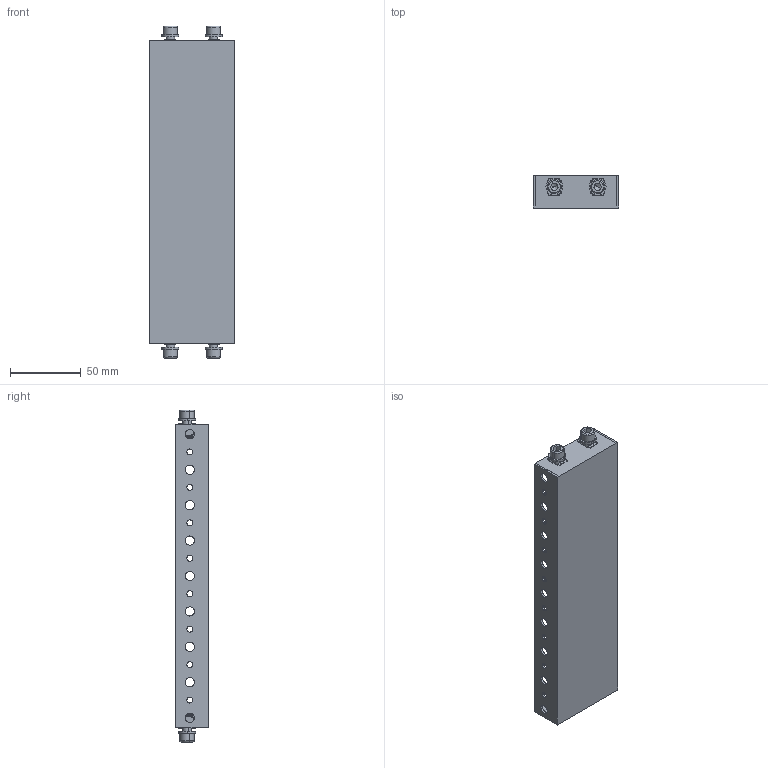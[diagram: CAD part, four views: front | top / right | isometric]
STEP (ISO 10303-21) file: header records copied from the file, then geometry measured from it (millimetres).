
FILE_DESCRIPTION(('Open CASCADE Model'),'2;1');
FILE_NAME('Open CASCADE Shape Model','2025-02-28T14:45:29',('Author'),( 'Open CASCADE'),'Open CASCADE STEP processor 7.8','Open CASCADE 7.8' ,'Unknown');
FILE_SCHEMA(('AUTOMOTIVE_DESIGN { 1 0 10303 214 1 1 1 1 }'));
Length unit declared in the file: millimetre
Products named in the file (5): Compound1; Solid1; Solid2; Solid3; Solid4
Assembly tree (13 placements, depth 2):
  Compound1
    Solid1
    Solid2  x4
    Solid3  x4
    Solid4  x4
Bounding box: 60.5 x 23 x 234.2 mm (x, y, z)
Volume: 41154 mm3; surface area: 56628.1 mm2
Topology: 13 solids, 13 shells, 682 faces, 1892 edges, 1228 vertices
Faces by surface type: plane 326, cylinder 308, cone 32, torus 16
Entity records: 8464 total; most frequent: CARTESIAN_POINT 1656, DIRECTION 1422, ORIENTED_EDGE 1392, EDGE_CURVE 696, AXIS2_PLACEMENT_3D 517, VERTEX_POINT 457, LINE 388, VECTOR 388
